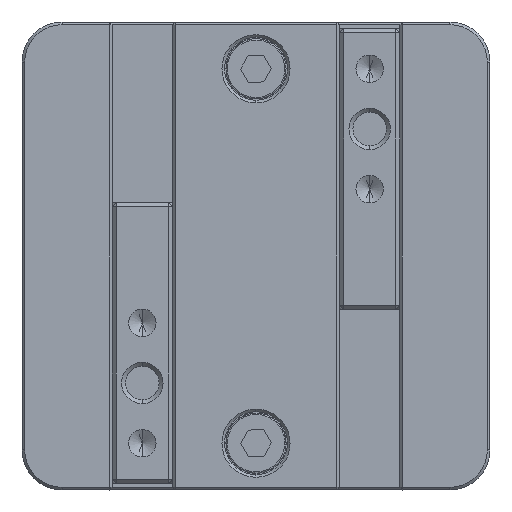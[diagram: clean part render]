
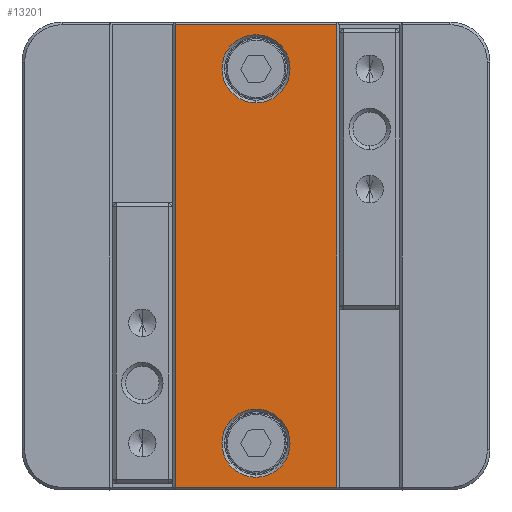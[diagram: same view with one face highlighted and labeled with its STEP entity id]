
A CAD part, front view. The second image highlights one B-rep face of the part: STEP entity #13201.
In plain terms, the highlighted planar face has unit normal (0, -1, 0).
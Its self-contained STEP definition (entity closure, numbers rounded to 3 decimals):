
#346 = CARTESIAN_POINT ( 'NONE',  ( 0., -13., 11.45 ) ) ;
#547 = AXIS2_PLACEMENT_3D ( 'NONE', #21523, #21045, #25444 ) ;
#1599 = CIRCLE ( 'NONE', #13155, 2.55 ) ;
#1789 = ORIENTED_EDGE ( 'NONE', *, *, #14970, .T. ) ;
#1791 = EDGE_CURVE ( 'NONE', #8140, #22024, #4417, .T. ) ;
#2216 = AXIS2_PLACEMENT_3D ( 'NONE', #31380, #15451, #34021 ) ;
#2254 = FACE_OUTER_BOUND ( 'NONE', #27102, .T. ) ;
#2375 = LINE ( 'NONE', #8914, #28782 ) ;
#2522 = DIRECTION ( 'NONE',  ( 1., 0., 0. ) ) ;
#2795 = LINE ( 'NONE', #17549, #8937 ) ;
#2938 = EDGE_CURVE ( 'NONE', #22275, #25310, #7530, .T. ) ;
#4417 = CIRCLE ( 'NONE', #2216, 2.55 ) ;
#4905 = CARTESIAN_POINT ( 'NONE',  ( 0., -13., -11.45 ) ) ;
#5683 = CARTESIAN_POINT ( 'NONE',  ( -6.05, -13., 17.3 ) ) ;
#5902 = EDGE_CURVE ( 'NONE', #22024, #8140, #14393, .T. ) ;
#6065 = ORIENTED_EDGE ( 'NONE', *, *, #1791, .T. ) ;
#7530 = CIRCLE ( 'NONE', #547, 2.55 ) ;
#8140 = VERTEX_POINT ( 'NONE', #9338 ) ;
#8914 = CARTESIAN_POINT ( 'NONE',  ( -6.05, -13., 0. ) ) ;
#8937 = VECTOR ( 'NONE', #12392, 1000. ) ;
#9338 = CARTESIAN_POINT ( 'NONE',  ( 0., -13., -16.55 ) ) ;
#9851 = CARTESIAN_POINT ( 'NONE',  ( -6.05, -13., -17.3 ) ) ;
#10284 = ORIENTED_EDGE ( 'NONE', *, *, #12719, .T. ) ;
#10487 = CARTESIAN_POINT ( 'NONE',  ( 6.05, -13., -17.3 ) ) ;
#10961 = DIRECTION ( 'NONE',  ( 0., 1., 0. ) ) ;
#11443 = DIRECTION ( 'NONE',  ( 0., -1., 0. ) ) ;
#11843 = VERTEX_POINT ( 'NONE', #18412 ) ;
#12392 = DIRECTION ( 'NONE',  ( 0., 0., 1. ) ) ;
#12464 = DIRECTION ( 'NONE',  ( 1., 0., 0. ) ) ;
#12531 = LINE ( 'NONE', #18193, #25004 ) ;
#12719 = EDGE_CURVE ( 'NONE', #13582, #29629, #12531, .T. ) ;
#13155 = AXIS2_PLACEMENT_3D ( 'NONE', #27337, #11443, #30011 ) ;
#13201 = ADVANCED_FACE ( 'NONE', ( #16995, #29495, #2254 ), #15008, .T. ) ;
#13582 = VERTEX_POINT ( 'NONE', #24987 ) ;
#14393 = CIRCLE ( 'NONE', #16408, 2.55 ) ;
#14970 = EDGE_CURVE ( 'NONE', #11843, #15696, #27237, .T. ) ;
#15008 = PLANE ( 'NONE',  #24508 ) ;
#15451 = DIRECTION ( 'NONE',  ( 0., 1., 0. ) ) ;
#15696 = VERTEX_POINT ( 'NONE', #5683 ) ;
#16408 = AXIS2_PLACEMENT_3D ( 'NONE', #26825, #10961, #29497 ) ;
#16995 = FACE_BOUND ( 'NONE', #31209, .T. ) ;
#17549 = CARTESIAN_POINT ( 'NONE',  ( 6.05, -13., 0. ) ) ;
#17811 = ORIENTED_EDGE ( 'NONE', *, *, #23830, .T. ) ;
#17822 = EDGE_CURVE ( 'NONE', #29629, #11843, #2795, .T. ) ;
#18193 = CARTESIAN_POINT ( 'NONE',  ( 0., -13., -17.3 ) ) ;
#18412 = CARTESIAN_POINT ( 'NONE',  ( 6.05, -13., 17.3 ) ) ;
#19597 = CARTESIAN_POINT ( 'NONE',  ( 0., -13., 17.3 ) ) ;
#21045 = DIRECTION ( 'NONE',  ( 0., -1., 0. ) ) ;
#21450 = ORIENTED_EDGE ( 'NONE', *, *, #5902, .T. ) ;
#21523 = CARTESIAN_POINT ( 'NONE',  ( 0., -13., 14. ) ) ;
#21967 = CARTESIAN_POINT ( 'NONE',  ( 0., -13., 16.55 ) ) ;
#22024 = VERTEX_POINT ( 'NONE', #4905 ) ;
#22275 = VERTEX_POINT ( 'NONE', #346 ) ;
#23603 = EDGE_LOOP ( 'NONE', ( #6065, #21450 ) ) ;
#23830 = EDGE_CURVE ( 'NONE', #15696, #13582, #2375, .T. ) ;
#24508 = AXIS2_PLACEMENT_3D ( 'NONE', #9851, #28390, #12464 ) ;
#24987 = CARTESIAN_POINT ( 'NONE',  ( -6.05, -13., -17.3 ) ) ;
#25004 = VECTOR ( 'NONE', #2522, 1000. ) ;
#25310 = VERTEX_POINT ( 'NONE', #21967 ) ;
#25444 = DIRECTION ( 'NONE',  ( 0., 0., -1. ) ) ;
#26503 = ORIENTED_EDGE ( 'NONE', *, *, #32711, .F. ) ;
#26825 = CARTESIAN_POINT ( 'NONE',  ( 0., -13., -14. ) ) ;
#27102 = EDGE_LOOP ( 'NONE', ( #17811, #10284, #28696, #1789 ) ) ;
#27237 = LINE ( 'NONE', #19597, #28076 ) ;
#27337 = CARTESIAN_POINT ( 'NONE',  ( 0., -13., 14. ) ) ;
#27385 = DIRECTION ( 'NONE',  ( 0., 0., -1. ) ) ;
#27666 = DIRECTION ( 'NONE',  ( -1., 0., 0. ) ) ;
#28076 = VECTOR ( 'NONE', #27666, 1000. ) ;
#28390 = DIRECTION ( 'NONE',  ( 0., -1., 0. ) ) ;
#28656 = ORIENTED_EDGE ( 'NONE', *, *, #2938, .F. ) ;
#28696 = ORIENTED_EDGE ( 'NONE', *, *, #17822, .T. ) ;
#28782 = VECTOR ( 'NONE', #27385, 1000. ) ;
#29495 = FACE_BOUND ( 'NONE', #23603, .T. ) ;
#29497 = DIRECTION ( 'NONE',  ( 0., 0., -1. ) ) ;
#29629 = VERTEX_POINT ( 'NONE', #10487 ) ;
#30011 = DIRECTION ( 'NONE',  ( 0., 0., -1. ) ) ;
#31209 = EDGE_LOOP ( 'NONE', ( #28656, #26503 ) ) ;
#31380 = CARTESIAN_POINT ( 'NONE',  ( 0., -13., -14. ) ) ;
#32711 = EDGE_CURVE ( 'NONE', #25310, #22275, #1599, .T. ) ;
#34021 = DIRECTION ( 'NONE',  ( 0., 0., -1. ) ) ;
